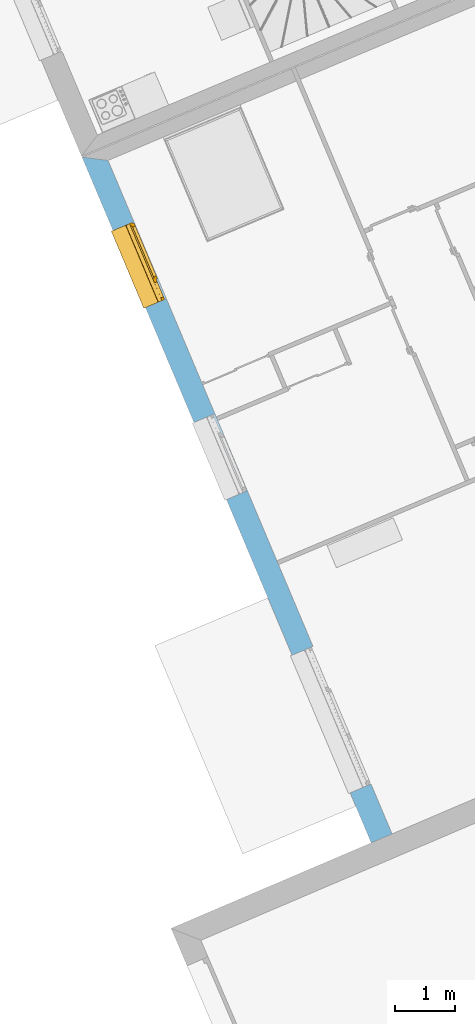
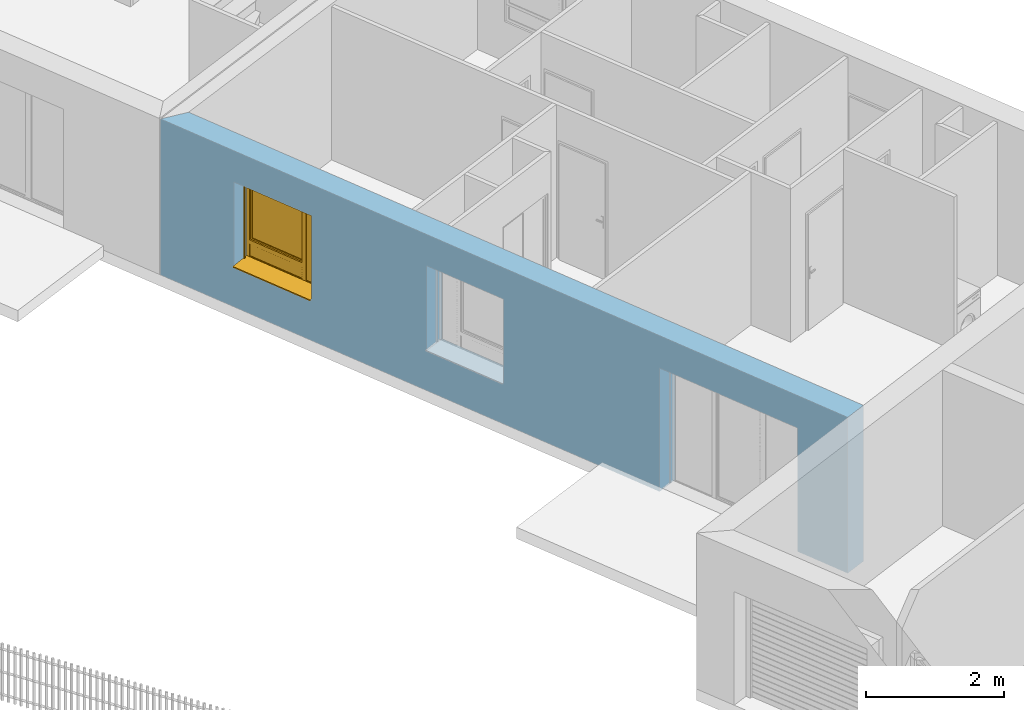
# One storey, part 51 of 195: 1 window, 3 openings, plus 1 element that does not belong to this part.
"""IFC2X3 building model written with IfcOpenShell, lengths in metres."""

from ifc_helpers import new_model, entity, si_unit, converted_unit, derived_unit, money_unit, direction, frame, origin_with_axes, place, context, subcontext, project, spatial, polyline, outline, extrude, open_shell, faceted_brep, surface_model, source, transform, mapped, material, layer, layer_set, layer_usage, type_object, element, fill, save


model = new_model("IFC2X3")

# Units and contexts
model_context = context("Model", 3, precision=1e-05, world=origin_with_axes(), true_north=direction((0.0, 1.0)))
body_context = subcontext(model_context, "Body", "Model", "MODEL_VIEW")
ifc_project = project(units=[si_unit("LENGTHUNIT", "METRE"), si_unit("AREAUNIT", "SQUARE_METRE"), si_unit("VOLUMEUNIT", "CUBIC_METRE"), converted_unit("PLANEANGLEUNIT", "DEGREE", entity("IfcPlaneAngleMeasure", 0.0174532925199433), si_unit("PLANEANGLEUNIT", "RADIAN"), dimensions=[0, 0, 0, 0, 0, 0, 0]), money_unit("CHF"), converted_unit("TIMEUNIT", "Year", entity("IfcTimeMeasure", 31557600.0), si_unit("TIMEUNIT", "SECOND"), dimensions=[0, 0, 1, 0, 0, 0, 0]), si_unit("MASSUNIT", "GRAM", prefix="KILO"), si_unit("THERMODYNAMICTEMPERATUREUNIT", "DEGREE_CELSIUS"), si_unit("LUMINOUSINTENSITYUNIT", "LUMEN"), si_unit("ENERGYUNIT", "JOULE", prefix="MEGA"), derived_unit("THERMALCONDUCTANCEUNIT", [(si_unit("POWERUNIT", "WATT"), 1), (si_unit("LENGTHUNIT", "METRE"), -1), (si_unit("THERMODYNAMICTEMPERATUREUNIT", "KELVIN"), -1)]), derived_unit("SPECIFICHEATCAPACITYUNIT", [(si_unit("ENERGYUNIT", "JOULE"), 1), (si_unit("MASSUNIT", "GRAM", prefix="KILO"), -1), (si_unit("THERMODYNAMICTEMPERATUREUNIT", "KELVIN"), -1)]), derived_unit("MASSDENSITYUNIT", [(si_unit("MASSUNIT", "GRAM", prefix="KILO"), 1), (si_unit("VOLUMEUNIT", "CUBIC_METRE"), -1)])], contexts=[model_context])

# Site, building, storey
site_placement = place(None, origin_with_axes())
site = spatial("IfcSite", under=ifc_project, at=site_placement, Name="Site", CompositionType="ELEMENT")
building_placement = place(site_placement, origin_with_axes())
building = spatial("IfcBuilding", under=site, at=building_placement, Name="Bâtiment", CompositionType="ELEMENT")
storey_placement = place(building_placement, origin_with_axes())
storey = spatial("IfcBuildingStorey", under=building, at=storey_placement, Name="rdc", CompositionType="ELEMENT", Elevation=0.0)

# Wall, openings, window
ifc_material_1 = material(Name="Parpaing 312445824")
ifc_layer_1 = layer(ifc_material_1, 0.22, ventilated="UNKNOWN")
ifc_material_2 = material(Name="Isolant styromousse 301821074")
ifc_layer_2 = layer(ifc_material_2, 0.16, ventilated="UNKNOWN")
ifc_layer_set = layer_set([ifc_layer_1, ifc_layer_2], Name="isol int 22+16 0836643197")
ifc_layer_usage = layer_usage(ifc_layer_set, "AXIS2", "POSITIVE", 0.0)
wall_type = type_object("IfcWallType", Name="isol int 22+16 0836643197 380", PredefinedType="NOTDEFINED")
wall_placement = place(storey_placement, frame((9563.373486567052, -1045.540246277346, 57.7), z_axis=(0.0, 0.0, 1.0), x_axis=(0.388566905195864, -0.9214205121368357, 0.0)))
wall = element("IfcWallStandardCase", 1, at=wall_placement, inside=storey, type_object=wall_type, material=ifc_layer_usage, Name="Mur-113", context=body_context, shape_type="SweptSolid", body=[
    extrude(outline(polyline([(-0.2199999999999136, 0.0), (12.22992275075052, 0.0), (12.22820255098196, 0.3800000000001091), (0.0, 0.3800000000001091), (-0.2199999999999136, 0.0)])), origin_with_axes(), (0.0, 0.0, 1.0), 2.75),
])
opening_1_placement = place(wall_placement, frame((5.297694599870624, 0.0, 0.7000000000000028), z_axis=(0.0, 0.0, 1.0), x_axis=(1.0, 0.0, 0.0)))
element("IfcOpeningElement", 2, at=opening_1_placement, cuts=wall, Name="Fen-045", context=body_context, shape_type="Brep", body=[
    faceted_brep([(-0.7000000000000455, 0.4799999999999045, 1.5), (0.6999999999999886, 0.4799999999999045, 1.5), (0.7000000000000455, 4.75972225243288, 1.5), (-0.6999999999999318, 4.75972225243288, 1.5), (-0.7000000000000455, 0.4799999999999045, 1.700000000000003), (0.6999999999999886, 0.4799999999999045, 1.700000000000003), (0.6999999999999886, 0.2999999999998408, 1.5), (0.6999999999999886, 0.2999999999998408, 0.0), (0.7000000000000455, 4.75972225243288, 0.0), (-0.6999999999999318, 4.75972225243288, 0.0), (-0.6999999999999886, 0.2999999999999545, 1.5), (-0.6999999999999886, 0.2999999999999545, 0.0), (-0.6999999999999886, 0.2199999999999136, 1.5), (-0.6999999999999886, 0.2199999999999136, 1.700000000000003), (0.7000000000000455, 0.2199999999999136, 1.700000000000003), (0.7000000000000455, 0.2199999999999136, 1.5), (0.6999999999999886, -4.379722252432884, 1.5), (0.6999999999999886, -4.379722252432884, 0.0), (-0.6999999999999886, -4.379722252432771, 0.0), (-0.6999999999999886, -4.379722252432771, 1.5)], [[[0, 1, 2, 3]], [[1, 0, 4, 5]], [[1, 6, 7, 8, 2]], [[2, 8, 9, 3]], [[10, 0, 3, 9, 11]], [[0, 10, 12, 13, 4]], [[4, 13, 14, 5]], [[6, 1, 5, 14, 15]], [[6, 15, 16, 17, 7]], [[7, 11, 9, 8]], [[12, 10, 11, 18, 19]], [[12, 15, 14, 13]], [[15, 12, 19, 16]], [[19, 18, 17, 16]], [[11, 7, 17, 18]]]),
])
opening_2_placement = place(wall_placement, frame((1.812199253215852, 0.0, 0.7000000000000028), z_axis=(0.0, 0.0, 1.0), x_axis=(1.0, 0.0, 0.0)))
opening_2 = element("IfcOpeningElement", 3, at=opening_2_placement, cuts=wall, Name="Fen-045", context=body_context, shape_type="Brep", body=[
    faceted_brep([(-0.7000000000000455, 0.4799999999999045, 1.5), (0.6999999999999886, 0.4799999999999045, 1.5), (0.6999999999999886, 4.759722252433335, 1.5), (-0.6999999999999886, 4.759722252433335, 1.5), (-0.7000000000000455, 0.4799999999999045, 1.700000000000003), (0.6999999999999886, 0.4799999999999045, 1.700000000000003), (0.6999999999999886, 0.3000000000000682, 1.5), (0.6999999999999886, 0.3000000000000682, 0.0), (0.6999999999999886, 4.759722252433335, 0.0), (-0.6999999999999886, 4.759722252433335, 0.0), (-0.6999999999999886, 0.3000000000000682, 1.5), (-0.6999999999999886, 0.2999999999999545, 0.0), (-0.6999999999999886, 0.2200000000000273, 1.5), (-0.6999999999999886, 0.2200000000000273, 1.700000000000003), (0.6999999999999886, 0.2200000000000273, 1.700000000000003), (0.6999999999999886, 0.2200000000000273, 1.5), (0.6999999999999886, -4.379722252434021, 1.5), (0.6999999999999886, -4.379722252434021, 0.0), (-0.6999999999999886, -4.379722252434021, 0.0), (-0.6999999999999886, -4.379722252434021, 1.5)], [[[0, 1, 2, 3]], [[1, 0, 4, 5]], [[1, 6, 7, 8, 2]], [[2, 8, 9, 3]], [[10, 0, 3, 9, 11]], [[0, 10, 12, 13, 4]], [[14, 5, 4, 13]], [[6, 1, 5, 14, 15]], [[6, 15, 16, 17, 7]], [[7, 11, 9, 8]], [[12, 10, 11, 18, 19]], [[12, 15, 14, 13]], [[15, 12, 19, 16]], [[19, 18, 17, 16]], [[11, 7, 17, 18]]]),
])
opening_3_placement = place(wall_placement, frame((10.07283339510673, 0.0, 0.0), z_axis=(0.0, 0.0, 1.0), x_axis=(1.0, 0.0, 0.0)))
element("IfcOpeningElement", 4, at=opening_3_placement, cuts=wall, Name="Fen-045", context=body_context, shape_type="Brep", body=[
    faceted_brep([(-1.250000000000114, 0.4799999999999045, 2.18), (1.249999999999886, 0.4800000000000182, 2.18), (1.249999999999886, 4.759722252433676, 2.18), (-1.250000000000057, 4.759722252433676, 2.18), (-1.250000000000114, 0.4799999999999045, 2.380000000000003), (1.249999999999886, 0.4800000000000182, 2.380000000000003), (1.249999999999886, 0.3000000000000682, 2.18), (1.249999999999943, 0.3000000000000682, 0.0), (1.249999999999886, 4.759722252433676, 0.0), (-1.250000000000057, 4.759722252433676, 0.0), (-1.250000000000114, 0.3000000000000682, 2.18), (-1.250000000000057, 0.3000000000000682, 0.0), (-1.250000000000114, 0.2199999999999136, 2.18), (-1.250000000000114, 0.2199999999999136, 2.380000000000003), (1.249999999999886, 0.2199999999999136, 2.380000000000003), (1.249999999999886, 0.2199999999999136, 2.18), (1.249999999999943, -4.379722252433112, 2.18), (1.249999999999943, -4.379722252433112, 0.0), (-1.250000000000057, -4.379722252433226, 0.0), (-1.250000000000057, -4.379722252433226, 2.18)], [[[0, 1, 2, 3]], [[1, 0, 4, 5]], [[1, 6, 7, 8, 2]], [[2, 8, 9, 3]], [[10, 0, 3, 9, 11]], [[0, 10, 12, 13, 4]], [[4, 13, 14, 5]], [[6, 1, 5, 14, 15]], [[6, 15, 16, 17, 7]], [[7, 11, 9, 8]], [[12, 10, 11, 18, 19]], [[12, 15, 14, 13]], [[15, 12, 19, 16]], [[19, 18, 17, 16]], [[11, 7, 17, 18]]]),
])
window_style = type_object("IfcWindowStyle", Name="Fenêtre variable 27", ConstructionType="NOTDEFINED", OperationType="TRIPLE_PANEL_RIGHT", ParameterTakesPrecedence=False, Sizeable=False)
shared_shape = source(origin_with_axes(), body_context, "Body", "SurfaceModel", [
    surface_model("IfcShellBasedSurfaceModel", [(-0.7, -0.05100000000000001, 0.05), (-0.7, -0.05100000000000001, 0.04), (0.7, -0.05100000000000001, 0.04000000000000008), (0.7, -0.05100000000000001, 0.05000000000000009), (-0.7, -0.3799999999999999, 0.02899999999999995), (0.7, -0.3799999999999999, 0.02900000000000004), (-0.7, -0.3799999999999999, 0.008999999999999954), (0.7, -0.3799999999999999, 0.00900000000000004), (-0.7, -0.3699999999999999, 0.01899999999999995), (0.7, -0.3699999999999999, 0.01900000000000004)], [open_shell([[[0, 1, 2, 3]], [[1, 4, 5, 2]], [[4, 6, 7, 5]], [[6, 8, 9, 7]]])]),
    faceted_brep([(-0.7, -0.13, 1.7), (-0.697, -0.13, 1.7), (-0.697, 0.13, 1.7), (-0.7, 0.13, 1.7), (-0.7, -0.13, 1.5), (-0.697, -0.13, 1.5), (-0.697, 0.13, 1.5), (-0.7, 0.13, 1.5)], [[[0, 1, 2, 3]], [[4, 5, 1, 0]], [[1, 5, 6, 2]], [[3, 2, 6, 7]], [[0, 3, 7, 4]], [[7, 6, 5, 4]]]),
    faceted_brep([(0.6970000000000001, -0.1299999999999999, 1.7), (0.7000000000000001, -0.1299999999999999, 1.7), (0.7000000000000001, 0.1300000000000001, 1.7), (0.6970000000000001, 0.1300000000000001, 1.7), (0.6970000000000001, -0.1299999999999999, 1.5), (0.7000000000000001, -0.1299999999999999, 1.5), (0.7000000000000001, 0.1300000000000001, 1.5), (0.6970000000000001, 0.1300000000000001, 1.5)], [[[0, 1, 2, 3]], [[4, 5, 1, 0]], [[1, 5, 6, 2]], [[3, 2, 6, 7]], [[0, 3, 7, 4]], [[7, 6, 5, 4]]]),
    faceted_brep([(-0.697, -0.13, 1.5), (0.697, -0.1299999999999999, 1.5), (0.697, -0.1299999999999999, 1.7), (-0.697, -0.13, 1.7), (-0.697, -0.127, 1.5), (0.697, -0.1269999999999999, 1.5), (0.697, -0.1269999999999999, 1.697), (0.697, 0.1270000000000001, 1.697), (0.697, 0.1270000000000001, 1.503), (0.697, -0.1079999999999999, 1.503), (0.697, -0.1079999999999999, 1.5), (0.697, 0.1300000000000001, 1.5), (0.697, 0.1300000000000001, 1.7), (-0.697, 0.13, 1.7), (-0.697, 0.13, 1.5), (-0.697, -0.108, 1.5), (-0.697, -0.108, 1.503), (-0.697, 0.127, 1.503), (-0.697, 0.127, 1.697), (-0.697, -0.127, 1.697)], [[[0, 1, 2, 3]], [[4, 5, 1, 0]], [[1, 5, 6, 7, 8, 9, 10, 11, 12, 2]], [[3, 2, 12, 13]], [[0, 3, 13, 14, 15, 16, 17, 18, 19, 4]], [[19, 6, 5, 4]], [[18, 7, 6, 19]], [[17, 8, 7, 18]], [[16, 9, 8, 17]], [[15, 10, 9, 16]], [[14, 11, 10, 15]], [[13, 12, 11, 14]]]),
    faceted_brep([(-0.694, -0.08075423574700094, 1.585760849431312), (-0.694, -0.08200000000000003, 1.6), (-0.694, -0.0807542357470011, 1.614239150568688), (-0.694, -0.07705479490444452, 1.628045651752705), (-0.694, -0.07101408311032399, 1.641), (-0.694, -0.06281564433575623, 1.652708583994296), (-0.694, -0.05270858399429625, 1.662815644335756), (-0.694, -0.04100000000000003, 1.671014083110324), (-0.694, -0.02804565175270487, 1.677054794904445), (-0.694, -0.01423915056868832, 1.680754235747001), (-0.694, 0.0, 1.682), (-0.694, 0.01423915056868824, 1.680754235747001), (-0.694, 0.02804565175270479, 1.677054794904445), (-0.694, 0.04099999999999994, 1.671014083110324), (-0.694, 0.05270858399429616, 1.662815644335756), (-0.694, 0.06281564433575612, 1.652708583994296), (-0.694, 0.07101408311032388, 1.641), (-0.694, 0.0770547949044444, 1.628045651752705), (-0.694, 0.08075423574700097, 1.614239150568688), (-0.694, 0.0819999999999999, 1.6), (-0.694, 0.08075423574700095, 1.585760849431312), (-0.694, 0.07705479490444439, 1.571954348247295), (-0.694, 0.07101408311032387, 1.559), (-0.694, 0.06281564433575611, 1.547291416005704), (-0.694, 0.05270858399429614, 1.537184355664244), (-0.694, 0.04099999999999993, 1.528985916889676), (-0.694, 0.02804565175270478, 1.522945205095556), (-0.694, 0.01423915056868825, 1.519245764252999), (-0.694, 0.0, 1.518), (-0.694, -0.01423915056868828, 1.519245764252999), (-0.694, -0.02804565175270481, 1.522945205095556), (-0.694, -0.04099999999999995, 1.528985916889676), (-0.694, -0.05270858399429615, 1.537184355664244), (-0.694, -0.06281564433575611, 1.547291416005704), (-0.694, -0.07101408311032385, 1.559), (-0.694, -0.07705479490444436, 1.571954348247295), (0.694, -0.08075423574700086, 1.585760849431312), (0.694, -0.08199999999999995, 1.6), (0.694, -0.08075423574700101, 1.614239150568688), (0.694, -0.07705479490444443, 1.628045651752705), (0.694, -0.07101408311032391, 1.641), (0.694, -0.06281564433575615, 1.652708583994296), (0.694, -0.05270858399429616, 1.662815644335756), (0.694, -0.04099999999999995, 1.671014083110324), (0.694, -0.02804565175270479, 1.677054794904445), (0.694, -0.01423915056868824, 1.680754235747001), (0.694, 0.0, 1.682), (0.694, 0.01423915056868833, 1.680754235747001), (0.694, 0.02804565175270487, 1.677054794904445), (0.694, 0.04100000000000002, 1.671014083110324), (0.694, 0.05270858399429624, 1.662815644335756), (0.694, 0.0628156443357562, 1.652708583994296), (0.694, 0.07101408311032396, 1.641), (0.694, 0.07705479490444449, 1.628045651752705), (0.694, 0.08075423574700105, 1.614239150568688), (0.694, 0.08199999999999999, 1.6), (0.694, 0.08075423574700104, 1.585760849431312), (0.694, 0.07705479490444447, 1.571954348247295), (0.694, 0.07101408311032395, 1.559), (0.694, 0.06281564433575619, 1.547291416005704), (0.694, 0.05270858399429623, 1.537184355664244), (0.694, 0.04100000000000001, 1.528985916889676), (0.694, 0.02804565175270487, 1.522945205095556), (0.694, 0.01423915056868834, 1.519245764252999), (0.694, 0.0, 1.518), (0.694, -0.0142391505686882, 1.519245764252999), (0.694, -0.02804565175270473, 1.522945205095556), (0.694, -0.04099999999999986, 1.528985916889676), (0.694, -0.05270858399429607, 1.537184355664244), (0.694, -0.06281564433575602, 1.547291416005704), (0.694, -0.07101408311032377, 1.559), (0.694, -0.07705479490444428, 1.571954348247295)], [[[0, 1, 2, 3, 4, 5, 6, 7, 8, 9, 10, 11, 12, 13, 14, 15, 16, 17, 18, 19, 20, 21, 22, 23, 24, 25, 26, 27, 28, 29, 30, 31, 32, 33, 34, 35]], [[0, 36, 37, 1]], [[1, 37, 38, 2]], [[2, 38, 39, 3]], [[3, 39, 40, 4]], [[4, 40, 41, 5]], [[5, 41, 42, 6]], [[6, 42, 43, 7]], [[7, 43, 44, 8]], [[8, 44, 45, 9]], [[9, 45, 46, 10]], [[10, 46, 47, 11]], [[11, 47, 48, 12]], [[12, 48, 49, 13]], [[13, 49, 50, 14]], [[14, 50, 51, 15]], [[15, 51, 52, 16]], [[16, 52, 53, 17]], [[17, 53, 54, 18]], [[18, 54, 55, 19]], [[19, 55, 56, 20]], [[20, 56, 57, 21]], [[21, 57, 58, 22]], [[22, 58, 59, 23]], [[23, 59, 60, 24]], [[24, 60, 61, 25]], [[25, 61, 62, 26]], [[26, 62, 63, 27]], [[27, 63, 64, 28]], [[28, 64, 65, 29]], [[29, 65, 66, 30]], [[30, 66, 67, 31]], [[31, 67, 68, 32]], [[32, 68, 69, 33]], [[33, 69, 70, 34]], [[34, 70, 71, 35]], [[35, 71, 36, 0]], [[36, 71, 70, 69, 68, 67, 66, 65, 64, 63, 62, 61, 60, 59, 58, 57, 56, 55, 54, 53, 52, 51, 50, 49, 48, 47, 46, 45, 44, 43, 42, 41, 40, 39, 38, 37]]]),
    faceted_brep([(0.7, -0.105, 0.03), (0.7, -0.1049999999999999, 1.5), (0.7, -0.1299999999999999, 1.5), (0.7, -0.13, 0.03), (0.6749999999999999, -0.105, 0.03), (0.6749999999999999, -0.1049999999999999, 1.5), (0.6749999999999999, -0.1079999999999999, 1.5), (0.697, -0.1079999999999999, 1.5), (0.697, -0.1269999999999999, 1.5), (0.6749999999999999, -0.1269999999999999, 1.5), (0.6749999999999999, -0.1299999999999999, 1.5), (0.6749999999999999, -0.13, 0.03), (0.6749999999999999, -0.127, 0.03), (0.697, -0.127, 0.03), (0.697, -0.108, 0.03), (0.6749999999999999, -0.108, 0.03)], [[[0, 1, 2, 3]], [[4, 5, 1, 0]], [[1, 5, 6, 7, 8, 9, 10, 2]], [[3, 2, 10, 11]], [[0, 3, 11, 12, 13, 14, 15, 4]], [[15, 6, 5, 4]], [[14, 7, 6, 15]], [[13, 8, 7, 14]], [[12, 9, 8, 13]], [[11, 10, 9, 12]]]),
    faceted_brep([(-0.7, -0.105, 0.03), (-0.7, -0.13, 0.03), (-0.7, -0.1299999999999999, 1.5), (-0.7, -0.1049999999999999, 1.5), (-0.6749999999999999, -0.105, 0.03), (-0.6749999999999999, -0.108, 0.03), (-0.697, -0.108, 0.03), (-0.697, -0.127, 0.03), (-0.6749999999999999, -0.127, 0.03), (-0.6749999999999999, -0.13, 0.03), (-0.6749999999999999, -0.1299999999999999, 1.5), (-0.6749999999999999, -0.1269999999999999, 1.5), (-0.697, -0.1269999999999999, 1.5), (-0.697, -0.1079999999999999, 1.5), (-0.6749999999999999, -0.1079999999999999, 1.5), (-0.6749999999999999, -0.1049999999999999, 1.5)], [[[0, 1, 2, 3]], [[0, 4, 5, 6, 7, 8, 9, 1]], [[1, 9, 10, 2]], [[3, 2, 10, 11, 12, 13, 14, 15]], [[4, 0, 3, 15]], [[5, 4, 15, 14]], [[6, 5, 14, 13]], [[7, 6, 13, 12]], [[8, 7, 12, 11]], [[9, 8, 11, 10]]]),
    surface_model("IfcShellBasedSurfaceModel", [(-0.697, -0.115, 1.6), (0.697, -0.1149999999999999, 1.6), (0.697, -0.1199999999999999, 1.6), (-0.697, -0.12, 1.6), (-0.697, -0.115, 1.6), (-0.697, -0.12, 1.6), (0.697, -0.12, 1.6), (0.697, -0.1149999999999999, 1.6)], [open_shell([[[0, 1, 2, 3]], [[4, 5, 6, 7]]])]),
    faceted_brep([(-0.697, -0.115, 1.6), (0.697, -0.1149999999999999, 1.6), (0.697, -0.1166666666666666, 1.583333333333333), (-0.697, -0.1166666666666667, 1.583333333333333), (-0.697, -0.12, 1.6), (0.697, -0.1199999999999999, 1.6), (0.697, -0.1216666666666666, 1.583333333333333), (0.697, -0.1216666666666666, 1.566666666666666), (0.697, -0.1199999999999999, 1.55), (0.697, -0.1149999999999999, 1.55), (0.697, -0.1166666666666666, 1.566666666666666), (-0.697, -0.1166666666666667, 1.566666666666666), (-0.697, -0.115, 1.55), (-0.697, -0.12, 1.55), (-0.697, -0.1216666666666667, 1.566666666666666), (-0.697, -0.1216666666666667, 1.583333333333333)], [[[0, 1, 2, 3]], [[4, 5, 1, 0]], [[1, 5, 6, 7, 8, 9, 10, 2]], [[3, 2, 10, 11]], [[0, 3, 11, 12, 13, 14, 15, 4]], [[15, 6, 5, 4]], [[14, 7, 6, 15]], [[13, 8, 7, 14]], [[12, 9, 8, 13]], [[11, 10, 9, 12]]]),
    faceted_brep([(-0.697, -0.115, 1.55), (0.697, -0.1149999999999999, 1.55), (0.697, -0.1166666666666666, 1.533333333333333), (-0.697, -0.1166666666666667, 1.533333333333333), (-0.697, -0.12, 1.55), (0.697, -0.1199999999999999, 1.55), (0.697, -0.1216666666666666, 1.533333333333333), (0.697, -0.1216666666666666, 1.516666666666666), (0.697, -0.1199999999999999, 1.5), (0.697, -0.1149999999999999, 1.5), (0.697, -0.1166666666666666, 1.516666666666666), (-0.697, -0.1166666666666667, 1.516666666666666), (-0.697, -0.115, 1.5), (-0.697, -0.12, 1.5), (-0.697, -0.1216666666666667, 1.516666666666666), (-0.697, -0.1216666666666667, 1.533333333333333)], [[[0, 1, 2, 3]], [[4, 5, 1, 0]], [[1, 5, 6, 7, 8, 9, 10, 2]], [[3, 2, 10, 11]], [[0, 3, 11, 12, 13, 14, 15, 4]], [[15, 6, 5, 4]], [[14, 7, 6, 15]], [[13, 8, 7, 14]], [[12, 9, 8, 13]], [[11, 10, 9, 12]]]),
    faceted_brep([(-0.6749999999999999, 0.0, 1.45), (-0.7, 0.0, 1.45), (-0.7, -0.05000000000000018, 1.45), (-0.6499999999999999, -0.05000000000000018, 1.45), (-0.6499999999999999, -0.02500000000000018, 1.45), (-0.6749999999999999, -0.02500000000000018, 1.45), (-0.6749999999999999, 0.0, 0.3099999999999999), (-0.6499999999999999, 0.0, 0.3099999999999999), (-0.6499999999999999, 0.0, 0.265), (-0.6499999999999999, 0.0, 0.05000000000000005), (-0.7, 0.0, 0.05000000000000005), (-0.7, -0.05000000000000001, 0.05000000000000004), (-0.6499999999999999, -0.05000000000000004, 0.335), (-0.6499999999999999, -0.05000000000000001, 0.05000000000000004), (-0.6499999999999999, -0.05000000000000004, 0.265), (-0.6499999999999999, -0.02500000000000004, 0.335), (-0.6499999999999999, -0.02500000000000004, 0.3099999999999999), (-0.6749999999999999, -0.02500000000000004, 0.3099999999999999)], [[[0, 1, 2, 3, 4, 5]], [[6, 7, 8, 9, 10, 1, 0]], [[1, 10, 11, 2]], [[12, 3, 2, 11, 13, 14]], [[4, 3, 12, 15]], [[15, 16, 17, 5, 4]], [[5, 17, 6, 0]], [[6, 17, 16, 7]], [[16, 15, 12, 14, 8, 7]], [[9, 8, 14, 13]], [[10, 9, 13, 11]]]),
    faceted_brep([(0.3068894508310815, -0.02500000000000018, 1.45), (0.3068894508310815, -0.05000000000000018, 1.45), (0.3768894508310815, -0.05000000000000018, 1.45), (0.3768894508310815, 0.0, 1.45), (0.3318894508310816, 0.0, 1.45), (0.3318894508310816, -0.02500000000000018, 1.45), (0.3068894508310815, -0.02500000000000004, 0.335), (0.3068894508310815, -0.05000000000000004, 0.335), (0.3068894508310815, -0.05000000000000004, 0.265), (0.3068894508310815, -0.05000000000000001, 0.05000000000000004), (0.3768894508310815, -0.05000000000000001, 0.05000000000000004), (0.3768894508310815, 0.0, 0.05000000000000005), (0.3318894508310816, 0.0, 0.3099999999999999), (0.3068894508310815, 0.0, 0.05000000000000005), (0.3068894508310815, 0.0, 0.265), (0.3068894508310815, 0.0, 0.3099999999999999), (0.3318894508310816, -0.02500000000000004, 0.3099999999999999), (0.3068894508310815, -0.02500000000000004, 0.3099999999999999)], [[[0, 1, 2, 3, 4, 5]], [[6, 7, 1, 0]], [[8, 9, 10, 2, 1, 7]], [[11, 3, 2, 10]], [[12, 4, 3, 11, 13, 14, 15]], [[12, 16, 5, 4]], [[5, 16, 17, 6, 0]], [[17, 15, 14, 8, 7, 6]], [[14, 13, 9, 8]], [[13, 11, 10, 9]], [[15, 17, 16, 12]]]),
    faceted_brep([(-0.6499999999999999, -0.02500000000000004, 0.335), (-0.6499999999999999, -0.05000000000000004, 0.335), (0.3068894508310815, -0.05000000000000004, 0.335), (0.3068894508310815, -0.02500000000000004, 0.335), (-0.6499999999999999, -0.02500000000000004, 0.3099999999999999), (-0.6499999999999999, 0.0, 0.3099999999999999), (-0.6499999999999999, 0.0, 0.265), (-0.6499999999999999, -0.05000000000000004, 0.265), (0.3068894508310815, -0.05000000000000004, 0.265), (0.3068894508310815, -0.02500000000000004, 0.3099999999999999), (0.3068894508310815, 0.0, 0.265), (0.3068894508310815, 0.0, 0.3099999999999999)], [[[0, 1, 2, 3]], [[4, 5, 6, 7, 1, 0]], [[2, 1, 7, 8]], [[9, 3, 2, 8, 10, 11]], [[9, 4, 0, 3]], [[5, 4, 9, 11]], [[11, 10, 6, 5]], [[6, 10, 8, 7]]]),
    faceted_brep([(-0.6749999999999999, 0.0, 1.45), (-0.7, 0.0, 1.45), (-0.7, 0.0, 1.5), (0.7, 0.0, 1.5), (0.7, 0.0, 1.45), (0.6499999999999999, 0.0, 1.45), (0.3768894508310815, 0.0, 1.45), (0.3318894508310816, 0.0, 1.45), (0.3318894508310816, 0.0, 1.475), (-0.6749999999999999, 0.0, 1.475), (-0.6749999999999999, -0.02500000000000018, 1.45), (-0.6499999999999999, -0.02500000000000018, 1.45), (-0.6499999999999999, -0.05000000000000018, 1.45), (-0.7, -0.05000000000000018, 1.45), (-0.7, -0.05000000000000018, 1.5), (0.7, -0.05000000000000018, 1.5), (0.7, -0.05000000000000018, 1.45), (0.6499999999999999, -0.05000000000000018, 1.45), (0.3768894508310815, -0.05000000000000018, 1.45), (0.3318894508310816, -0.02500000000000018, 1.45), (0.3068894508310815, -0.05000000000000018, 1.45), (0.3068894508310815, -0.02500000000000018, 1.45), (0.3318894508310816, -0.02500000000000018, 1.475), (-0.6749999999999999, -0.02500000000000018, 1.475)], [[[0, 1, 2, 3, 4, 5, 6, 7, 8, 9]], [[10, 11, 12, 13, 1, 0]], [[2, 1, 13, 14]], [[3, 2, 14, 15]], [[4, 3, 15, 16]], [[5, 4, 16, 17]], [[6, 5, 17, 18]], [[19, 7, 6, 18, 20, 21]], [[7, 19, 22, 8]], [[8, 22, 23, 9]], [[9, 23, 10, 0]], [[21, 11, 10, 23, 22, 19]], [[21, 20, 12, 11]], [[18, 17, 16, 15, 14, 13, 12, 20]]]),
    faceted_brep([(0.6499999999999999, -0.05000000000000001, 0.05), (0.6499999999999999, 0.0, 0.05000000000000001), (0.7, 0.0, 0.05000000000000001), (0.7, -0.05000000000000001, 0.05), (0.6499999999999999, -0.05000000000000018, 1.45), (0.6499999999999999, 0.0, 1.45), (0.7, 0.0, 1.45), (0.7, -0.05000000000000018, 1.45)], [[[0, 1, 2, 3]], [[4, 5, 1, 0]], [[1, 5, 6, 2]], [[3, 2, 6, 7]], [[0, 3, 7, 4]], [[7, 6, 5, 4]]]),
    faceted_brep([(-0.6499999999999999, -0.05000000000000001, 0.05), (-0.6499999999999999, 0.0, 0.05000000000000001), (-0.7, 0.0, 0.05000000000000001), (-0.7, -0.05000000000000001, 0.05), (0.3068894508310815, -0.05000000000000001, 0.05), (0.3068894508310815, 0.0, 0.05000000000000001), (0.3768894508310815, 0.0, 0.05000000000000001), (0.6499999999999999, 0.0, 0.05000000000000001), (0.7, 0.0, 0.05000000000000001), (0.7, 0.0, 0.0), (-0.7, 0.0, 0.0), (-0.7, -0.05, 0.0), (0.7, -0.05, 0.0), (0.7, -0.05000000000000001, 0.05), (0.6499999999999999, -0.05000000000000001, 0.05), (0.3768894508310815, -0.05000000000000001, 0.05)], [[[0, 1, 2, 3]], [[4, 5, 1, 0]], [[1, 5, 6, 7, 8, 9, 10, 2]], [[3, 2, 10, 11]], [[0, 3, 11, 12, 13, 14, 15, 4]], [[15, 6, 5, 4]], [[14, 7, 6, 15]], [[13, 8, 7, 14]], [[12, 9, 8, 13]], [[11, 10, 9, 12]]]),
    faceted_brep([(-0.625, -0.02500000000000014, 1.425), (-0.625, 0.02499999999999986, 1.425), (-0.6749999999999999, 0.02499999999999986, 1.425), (-0.6749999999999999, -0.02500000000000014, 1.425), (-0.625, -0.02500000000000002, 0.3599999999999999), (-0.625, 0.02499999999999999, 0.3599999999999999), (-0.6749999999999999, 0.02499999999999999, 0.3599999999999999), (-0.6749999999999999, -0.02500000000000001, 0.3599999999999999)], [[[0, 1, 2, 3]], [[4, 5, 1, 0]], [[1, 5, 6, 2]], [[3, 2, 6, 7]], [[0, 3, 7, 4]], [[7, 6, 5, 4]]]),
    faceted_brep([(0.2818894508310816, -0.02500000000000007, 0.3599999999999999), (0.2818894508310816, 0.02499999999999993, 0.3599999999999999), (0.3318894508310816, 0.02499999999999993, 0.3599999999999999), (0.3318894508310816, -0.02500000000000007, 0.3599999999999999), (0.2818894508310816, -0.0250000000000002, 1.425), (0.2818894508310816, 0.0249999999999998, 1.425), (0.3318894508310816, 0.0249999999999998, 1.425), (0.3318894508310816, -0.0250000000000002, 1.425)], [[[0, 1, 2, 3]], [[4, 5, 1, 0]], [[1, 5, 6, 2]], [[3, 2, 6, 7]], [[0, 3, 7, 4]], [[7, 6, 5, 4]]]),
    faceted_brep([(0.3318894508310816, -0.02500000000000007, 0.3099999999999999), (0.3318894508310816, 0.02499999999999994, 0.3099999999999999), (0.3318894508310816, 0.02499999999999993, 0.3599999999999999), (0.3318894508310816, -0.02500000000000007, 0.3599999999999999), (-0.6749999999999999, -0.025, 0.3099999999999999), (-0.6749999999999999, 0.02499999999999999, 0.3099999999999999), (-0.6749999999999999, 0.02499999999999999, 0.3599999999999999), (-0.625, 0.02499999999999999, 0.3599999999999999), (0.2818894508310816, 0.02499999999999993, 0.3599999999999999), (0.2818894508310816, -0.02500000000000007, 0.3599999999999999), (-0.625, -0.02500000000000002, 0.3599999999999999), (-0.6749999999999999, -0.02500000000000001, 0.3599999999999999)], [[[0, 1, 2, 3]], [[4, 5, 1, 0]], [[1, 5, 6, 7, 8, 2]], [[3, 2, 8, 9]], [[0, 3, 9, 10, 11, 4]], [[11, 6, 5, 4]], [[10, 7, 6, 11]], [[9, 8, 7, 10]]]),
    faceted_brep([(-0.6749999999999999, -0.02500000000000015, 1.475), (-0.6749999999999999, 0.02499999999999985, 1.475), (-0.6749999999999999, 0.02499999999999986, 1.425), (-0.6749999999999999, -0.02500000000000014, 1.425), (0.3318894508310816, -0.02500000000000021, 1.475), (0.3318894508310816, 0.02499999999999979, 1.475), (0.3318894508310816, 0.0249999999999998, 1.425), (0.2818894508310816, 0.0249999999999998, 1.425), (-0.625, 0.02499999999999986, 1.425), (-0.625, -0.02500000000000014, 1.425), (0.2818894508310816, -0.0250000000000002, 1.425), (0.3318894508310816, -0.0250000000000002, 1.425)], [[[0, 1, 2, 3]], [[4, 5, 1, 0]], [[1, 5, 6, 7, 8, 2]], [[3, 2, 8, 9]], [[0, 3, 9, 10, 11, 4]], [[11, 6, 5, 4]], [[10, 7, 6, 11]], [[9, 8, 7, 10]]]),
    surface_model("IfcShellBasedSurfaceModel", [(-0.625, -0.01000000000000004, 0.3599999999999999), (0.2818894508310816, -0.01000000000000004, 0.3599999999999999), (0.2818894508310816, -0.01000000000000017, 1.425), (-0.625, -0.01000000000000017, 1.425)], [open_shell([[[0, 1, 2, 3]]])]),
    surface_model("IfcShellBasedSurfaceModel", [(-0.625, 0.009999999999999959, 0.3599999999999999), (-0.625, 0.00999999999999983, 1.425), (0.2818894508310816, 0.00999999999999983, 1.425), (0.2818894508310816, 0.009999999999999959, 0.3599999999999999)], [open_shell([[[0, 1, 2, 3]]])]),
    surface_model("IfcShellBasedSurfaceModel", [(0.3768894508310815, -0.035, 0.05), (0.65, -0.035, 0.05), (0.65, -0.03500000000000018, 1.45), (0.3768894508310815, -0.03500000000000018, 1.45)], [open_shell([[[0, 1, 2, 3]]])]),
    surface_model("IfcShellBasedSurfaceModel", [(0.3768894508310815, -0.015, 0.05), (0.3768894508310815, -0.01500000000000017, 1.45), (0.65, -0.01500000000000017, 1.45), (0.65, -0.015, 0.05)], [open_shell([[[0, 1, 2, 3]]])]),
    surface_model("IfcShellBasedSurfaceModel", [(-0.6499999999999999, -0.035, 0.05), (0.3068894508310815, -0.035, 0.05), (0.3068894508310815, -0.03500000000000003, 0.265), (-0.6499999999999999, -0.03500000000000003, 0.265)], [open_shell([[[0, 1, 2, 3]]])]),
    surface_model("IfcShellBasedSurfaceModel", [(-0.6499999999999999, -0.015, 0.05), (-0.6499999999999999, -0.01500000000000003, 0.265), (0.3068894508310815, -0.01500000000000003, 0.265), (0.3068894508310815, -0.015, 0.05)], [open_shell([[[0, 1, 2, 3]]])]),
])
window_placement = place(opening_2_placement, frame((-0.7000000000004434, 0.0, 0.0), z_axis=(0.0, 0.0, 1.0), x_axis=(1.0, 0.0, 0.0)))
window = element("IfcWindow", 5, at=window_placement, inside=storey, type_object=window_style, Name="Fen-045", OverallHeight=1.5, OverallWidth=1.4, context=body_context, shape_type="MappedRepresentation", body=[
    mapped(shared_shape, transform((0.6999999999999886, 0.3499999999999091, 0.0))),
])
fill(opening_2, window)

save(model, "model.ifc")
